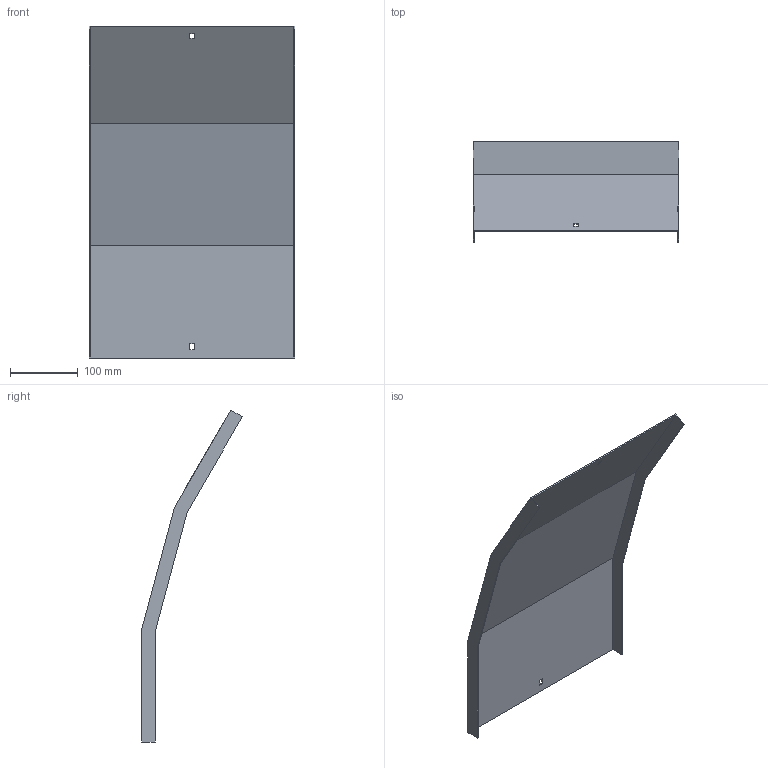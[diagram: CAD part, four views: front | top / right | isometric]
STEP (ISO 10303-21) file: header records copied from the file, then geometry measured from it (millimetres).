
FILE_DESCRIPTION (( 'STEP AP214' ), '1' );
FILE_NAME ('A2_35N3D300.step', '2025-02-21T10:30:43', ( '' ), ( '' ), 'SwSTEP 2.0', 'SolidWorks 2023', '' );
FILE_SCHEMA (( 'AUTOMOTIVE_DESIGN' ));
Length unit declared in the file: millimetre
Products named in the file (1): A2_35N3D300
Bounding box: 303 x 148.61 x 489.96 mm (x, y, z)
Volume: 263782.2 mm3; surface area: 354347.8 mm2
Topology: 1 solids, 1 shells, 26 faces, 72 edges, 48 vertices
Faces by surface type: plane 26
Entity records: 847 total; most frequent: CARTESIAN_POINT 147, ORIENTED_EDGE 144, DIRECTION 126, VECTOR 72, LINE 72, EDGE_CURVE 72, VERTEX_POINT 48, EDGE_LOOP 30
